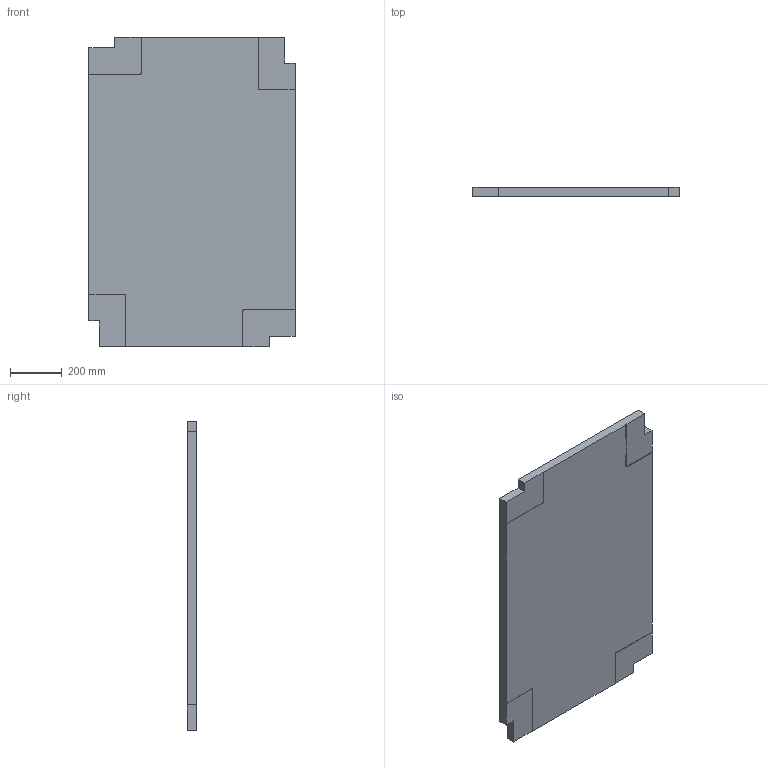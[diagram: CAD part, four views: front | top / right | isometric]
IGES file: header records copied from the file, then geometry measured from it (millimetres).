
Start section: SolidWorks IGES file using analytic representation for surfaces
Global section: file name: F:\Cz³owiek uk³adanka\CU-00-00-01.IGS; native system: SolidWorks 2018; preprocessor: SolidWorks 2018; author: MMieczkowski; date: 220629.194623; units: millimetre
Bounding box: 800 x 36 x 1200 mm (x, y, z)
Surface area: 2071777.4 mm2 (no closed solid volume)
Topology: 0 solids, 0 shells, 109 faces, 1597 edges, 1597 vertices
Faces by surface type: bspline 101, revolution 8
